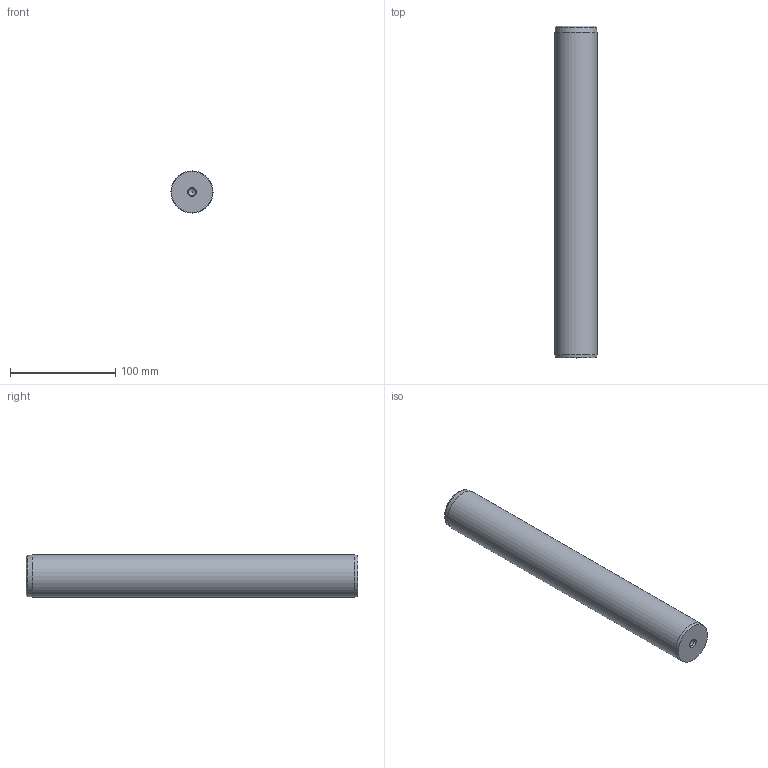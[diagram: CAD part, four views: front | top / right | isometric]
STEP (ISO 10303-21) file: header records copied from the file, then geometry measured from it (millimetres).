
FILE_DESCRIPTION( ( 'STEP AP203' ), '1' );
FILE_NAME( 'D:/Cuma/D14/D14_40315.step', '2003-01-18T23:13:54', ( ' ' ), ( ' ' ), 'XStep 1.0', ' ', ' ' );
FILE_SCHEMA( ( 'CONFIG_CONTROL_DESIGN' ) );
Length unit declared in the file: metre
Products named in the file (1): 1
Bounding box: 40 x 315 x 40 mm (x, y, z)
Volume: 393410.1 mm3; surface area: 42956.4 mm2
Topology: 1 solids, 1 shells, 14 faces, 29 edges, 17 vertices
Faces by surface type: cone 6, cylinder 5, plane 2, torus 1
Full cylindrical faces by diameter (mm): 6.75 x4, 40 x1
Entity records: 327 total; most frequent: DIRECTION 56, CARTESIAN_POINT 43, AXIS2_PLACEMENT_3D 28, EDGE_LOOP 26, ORIENTED_EDGE 26, FACE_OUTER_BOUND 20, VERTEX_POINT 15, ADVANCED_FACE 14
